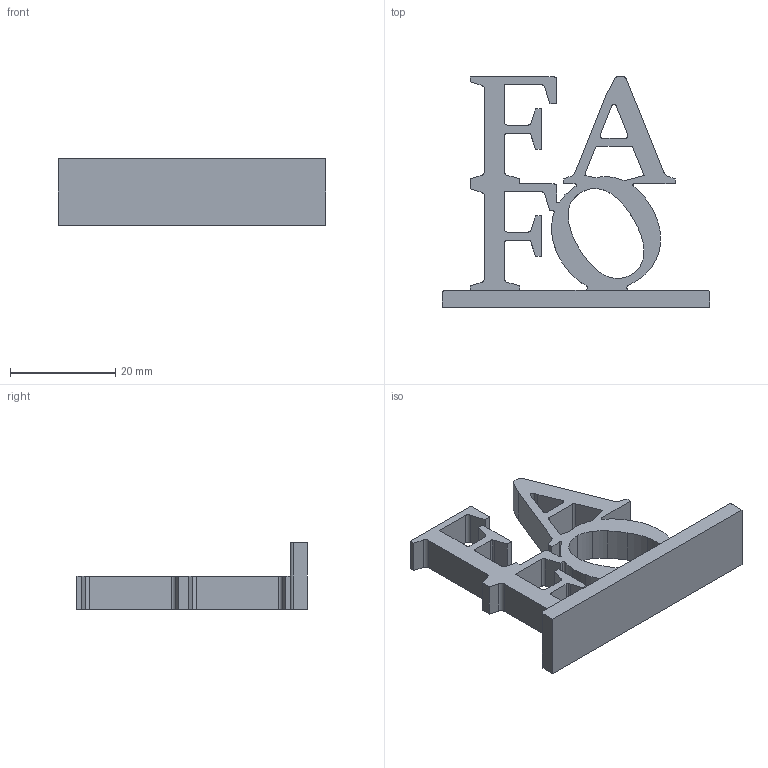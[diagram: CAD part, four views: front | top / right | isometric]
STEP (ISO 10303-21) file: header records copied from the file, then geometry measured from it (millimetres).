
FILE_DESCRIPTION ((), '1');
FILE_NAME ('C:\Users\james\OneDrive\Desktop\parts to print\FAFO.stp', '2025-02-12T20:07:30', ('C:\Users\james\OneDrive\Desktop\parts to print\FAFO.stp'), ('Unknown'), 'HarmonyWare STEP v1.3.9', 'Bobcad-cam', '');
FILE_SCHEMA (('CONFIG_CONTROL_DESIGN'));
Length unit declared in the file: millimetre
Products named in the file (2): product-name
Bounding box: 50.8 x 43.72 x 12.7 mm (x, y, z)
Volume: 5629.3 mm3; surface area: 5226.2 mm2
Topology: 1 solids, 1 shells, 140 faces, 562 edges, 568 vertices
Faces by surface type: bspline 140
Entity records: 5639 total; most frequent: CARTESIAN_POINT 2417, ORIENTED_EDGE 834, EDGE_CURVE 417, VERTEX_POINT 278, B_SPLINE_CURVE_WITH_KNOTS 274, EDGE_LOOP 147, COLOUR_RGB 146, PRESENTATION_STYLE_ASSIGNMENT 146
